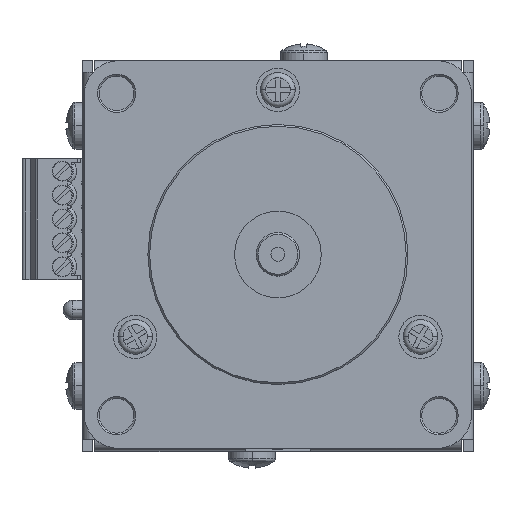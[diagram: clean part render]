
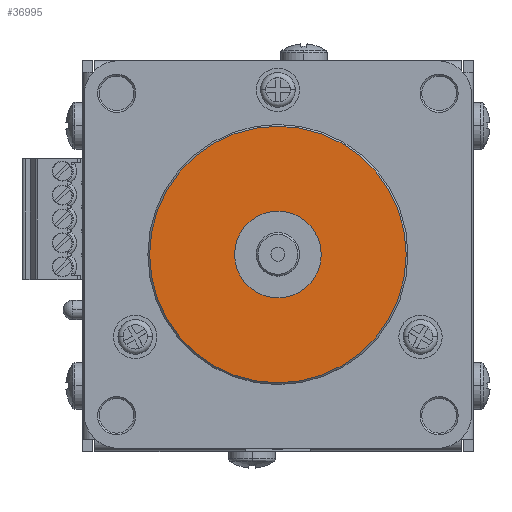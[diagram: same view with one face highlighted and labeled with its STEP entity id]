
A CAD part, top view. The second image highlights one B-rep face of the part: STEP entity #36995.
In plain terms, the highlighted planar face has unit normal (0, 0, 1).
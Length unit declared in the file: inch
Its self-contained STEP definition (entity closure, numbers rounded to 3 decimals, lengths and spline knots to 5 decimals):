
#840 = DIRECTION ( 'NONE',  ( 0., 0., 1. ) ) ;
#3263 = VERTEX_POINT ( 'NONE', #53076 ) ;
#5109 = CARTESIAN_POINT ( 'NONE',  ( 0., 0., 0.06 ) ) ;
#6220 = CARTESIAN_POINT ( 'NONE',  ( -0.25, 0., 0.06 ) ) ;
#6382 = CARTESIAN_POINT ( 'NONE',  ( 0., 0., 0.06 ) ) ;
#14139 = CARTESIAN_POINT ( 'NONE',  ( 0., 0., 0.06 ) ) ;
#14505 = EDGE_LOOP ( 'NONE', ( #124214, #68636 ) ) ;
#15408 = ORIENTED_EDGE ( 'NONE', *, *, #74013, .F. ) ;
#17488 = DIRECTION ( 'NONE',  ( 1., 0., 0. ) ) ;
#17593 = FACE_BOUND ( 'NONE', #145878, .T. ) ;
#17753 = CARTESIAN_POINT ( 'NONE',  ( -0.74, 0., 0.06 ) ) ;
#18727 = DIRECTION ( 'NONE',  ( 1., 0., 0. ) ) ;
#20823 = CARTESIAN_POINT ( 'NONE',  ( 0., 0., 0.06 ) ) ;
#25360 = EDGE_CURVE ( 'NONE', #98800, #140628, #48711, .T. ) ;
#26388 = DIRECTION ( 'NONE',  ( 1., 0., 0. ) ) ;
#30445 = PLANE ( 'NONE',  #87052 ) ;
#33033 = DIRECTION ( 'NONE',  ( 1., 0., 0. ) ) ;
#35118 = ORIENTED_EDGE ( 'NONE', *, *, #25360, .F. ) ;
#36995 = ADVANCED_FACE ( 'NONE', ( #78831, #17593 ), #30445, .T. ) ;
#48711 = CIRCLE ( 'NONE', #141876, 0.25 ) ;
#53076 = CARTESIAN_POINT ( 'NONE',  ( 0.74, 0., 0.06 ) ) ;
#68636 = ORIENTED_EDGE ( 'NONE', *, *, #119744, .T. ) ;
#74013 = EDGE_CURVE ( 'NONE', #140628, #98800, #136122, .T. ) ;
#74178 = CARTESIAN_POINT ( 'NONE',  ( 0., 0., 0.06 ) ) ;
#78831 = FACE_OUTER_BOUND ( 'NONE', #14505, .T. ) ;
#78910 = VERTEX_POINT ( 'NONE', #17753 ) ;
#86499 = DIRECTION ( 'NONE',  ( 1., 0., 0. ) ) ;
#87052 = AXIS2_PLACEMENT_3D ( 'NONE', #6382, #92033, #18727 ) ;
#90780 = DIRECTION ( 'NONE',  ( 0., 0., 1. ) ) ;
#92033 = DIRECTION ( 'NONE',  ( 0., 0., 1. ) ) ;
#95522 = AXIS2_PLACEMENT_3D ( 'NONE', #5109, #90780, #17488 ) ;
#96316 = AXIS2_PLACEMENT_3D ( 'NONE', #20823, #106393, #33033 ) ;
#98800 = VERTEX_POINT ( 'NONE', #6220 ) ;
#99669 = DIRECTION ( 'NONE',  ( 0., 0., 1. ) ) ;
#100162 = CARTESIAN_POINT ( 'NONE',  ( 0.25, 0., 0.06 ) ) ;
#106393 = DIRECTION ( 'NONE',  ( 0., 0., 1. ) ) ;
#109761 = CIRCLE ( 'NONE', #96316, 0.74 ) ;
#119744 = EDGE_CURVE ( 'NONE', #3263, #78910, #109761, .T. ) ;
#124214 = ORIENTED_EDGE ( 'NONE', *, *, #149327, .T. ) ;
#136122 = CIRCLE ( 'NONE', #95522, 0.25 ) ;
#140628 = VERTEX_POINT ( 'NONE', #100162 ) ;
#141876 = AXIS2_PLACEMENT_3D ( 'NONE', #74178, #840, #86499 ) ;
#145878 = EDGE_LOOP ( 'NONE', ( #35118, #15408 ) ) ;
#146727 = AXIS2_PLACEMENT_3D ( 'NONE', #14139, #99669, #26388 ) ;
#148091 = CIRCLE ( 'NONE', #146727, 0.74 ) ;
#149327 = EDGE_CURVE ( 'NONE', #78910, #3263, #148091, .T. ) ;
